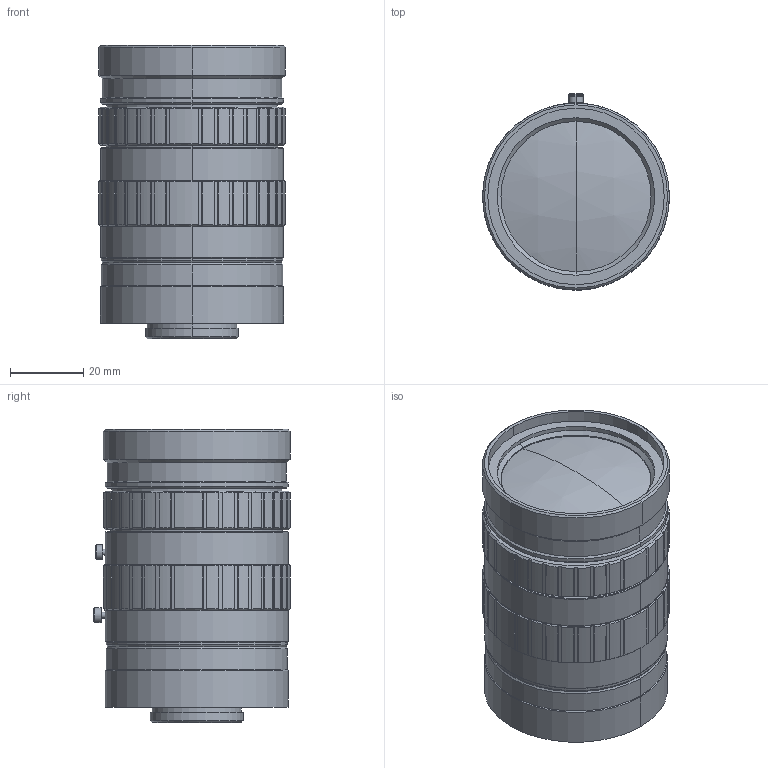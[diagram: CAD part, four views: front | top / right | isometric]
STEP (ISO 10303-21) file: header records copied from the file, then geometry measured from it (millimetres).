
FILE_DESCRIPTION (( 'STEP AP214' ), '1' );
FILE_NAME ('CF75HA-1_3D_Modeling.STEP', '2016-06-07T04:14:14', ( '富士フイルム株式会社' ), ( '富士フイルム株式会社' ), 'SwSTEP 2.0', 'SolidWorks 2014', '' );
FILE_SCHEMA (( 'AUTOMOTIVE_DESIGN' ));
Length unit declared in the file: millimetre
Products named in the file (1): CF75HA-1_3D_Modeling
Bounding box: 51 x 53.6 x 80.01 mm (x, y, z)
Volume: 142783 mm3; surface area: 18974.2 mm2
Topology: 1 solids, 1 shells, 361 faces, 980 edges, 637 vertices
Faces by surface type: cylinder 174, plane 147, cone 38, sphere 2
Entity records: 11874 total; most frequent: CARTESIAN_POINT 2899, ORIENTED_EDGE 1960, DIRECTION 1822, EDGE_CURVE 980, AXIS2_PLACEMENT_3D 740, VERTEX_POINT 637, CIRCLE 378, EDGE_LOOP 377
